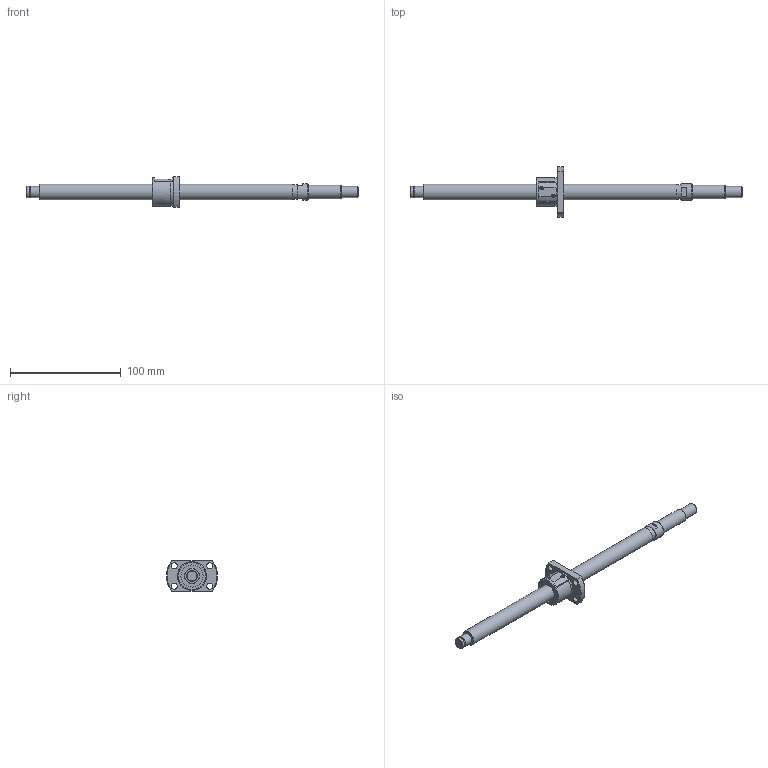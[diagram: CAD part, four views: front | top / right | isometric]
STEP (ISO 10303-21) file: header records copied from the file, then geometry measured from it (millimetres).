
FILE_DESCRIPTION(/* description */ ('STEP AP214'),/* implementation_level */ '2;1');
FILE_NAME(/* name */ 'SG1402-229R300C3B0X(102)',/* time_stamp */ '2026-07-24T21:00:09+02:00',/* author */ ('License CC BY-ND 4.0'),/* organization */ ('CADENAS'),/* preprocessor_version */ 'ST-DEVELOPER v20',/* originating_system */ 'PARTsolutions',/* authorisation */ ' ');
FILE_SCHEMA (('AUTOMOTIVE_DESIGN {1 0 10303 214 3 1 1}'));
Length unit declared in the file: millimetre
Products named in the file (3): SG1402-229R300C3B0X(102); SG1402-229R300C3B_shaft; SG1402_nut
Assembly tree (2 placements, depth 2):
  SG1402-229R300C3B0X(102)
    SG1402-229R300C3B_shaft
    SG1402_nut
Bounding box: 300 x 46 x 28 mm (x, y, z)
Volume: 55184.2 mm3; surface area: 18859.7 mm2
Topology: 2 solids, 2 shells, 85 faces, 201 edges, 131 vertices
Faces by surface type: plane 41, cylinder 29, cone 14, torus 1
Full cylindrical faces by diameter (mm): 5.5 x4, 9.6 x1, 10 x3, 12 x1, 12.77 x1, 14 x2, 15 x1, 20 x2, 25.6 x1, 26 x1
Entity records: 2355 total; most frequent: CARTESIAN_POINT 432, DIRECTION 404, ORIENTED_EDGE 326, AXIS2_PLACEMENT_3D 171, EDGE_CURVE 163, EDGE_LOOP 134, FACE_BOUND 134, VERTEX_POINT 121
